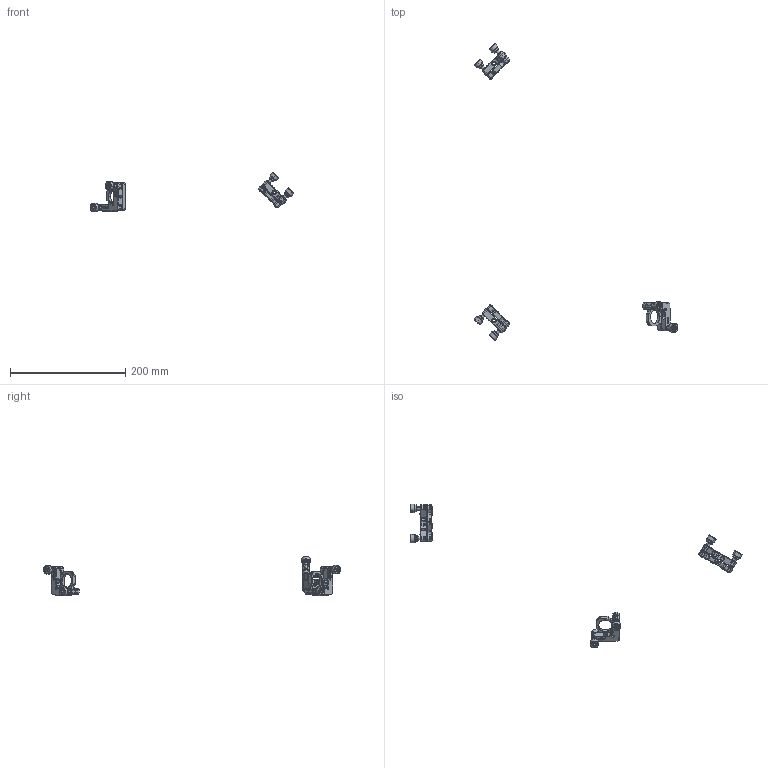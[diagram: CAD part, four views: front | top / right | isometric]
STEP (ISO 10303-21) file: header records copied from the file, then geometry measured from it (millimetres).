
FILE_DESCRIPTION(/* description */ (''),/* implementation_level */ '2;1');
FILE_NAME(/* name */ 'OP6E95~1',/* time_stamp */ '2014-02-14T19:49:50+01:00',/* author */ (''),/* organization */ (''),/* preprocessor_version */ 'ST-DEVELOPER v14',/* originating_system */ '',/* authorisation */ '');
FILE_SCHEMA (('AUTOMOTIVE_DESIGN'));
Products named in the file (2): Document; ThorLabs mirror mount, KM100
Assembly tree (2 placements, depth 2):
  Document
    ThorLabs mirror mount, KM100  x2
Bounding box: 353.07 x 515.09 x 68.52 mm (x, y, z)
Volume: 62667.1 mm3; surface area: 47415.1 mm2
Topology: 63 solids, 63 shells, 2562 faces, 6246 edges, 3915 vertices
Faces by surface type: bspline 1443, plane 1119
Entity records: 147971 total; most frequent: CARTESIAN_POINT 93875, B_SPLINE_CURVE_WITH_KNOTS 10230, ORIENTED_EDGE 8208, PCURVE 8208, DEFINITIONAL_REPRESENTATION 8208, SURFACE_CURVE 4104, EDGE_CURVE 4104, VERTEX_POINT 2610
